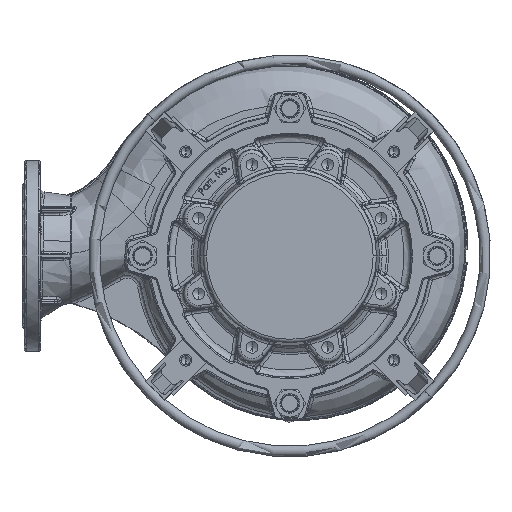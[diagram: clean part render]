
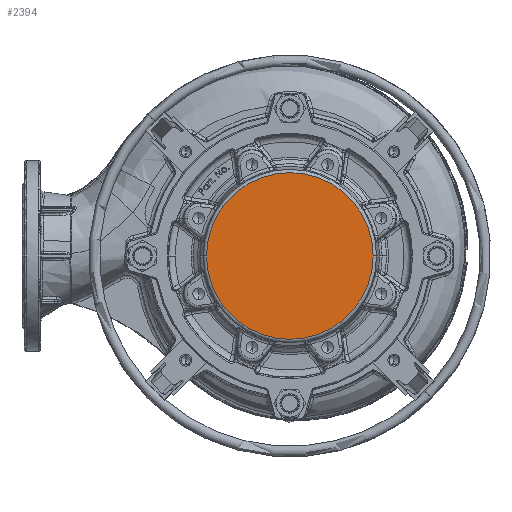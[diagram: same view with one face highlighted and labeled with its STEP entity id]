
A CAD part, front view. The second image highlights one B-rep face of the part: STEP entity #2394.
In plain terms, the highlighted planar face has unit normal (0, -1, 0).
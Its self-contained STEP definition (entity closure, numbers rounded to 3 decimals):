
#2394 = ADVANCED_FACE ( 'NONE', ( #90770 ), #7845, .T. ) ;
#7845 = PLANE ( 'NONE',  #25834 ) ;
#12954 = DIRECTION ( 'NONE',  ( -1., 0., 0. ) ) ;
#25834 = AXIS2_PLACEMENT_3D ( 'NONE', #193486, #188701, #190007 ) ;
#28322 = ORIENTED_EDGE ( 'NONE', *, *, #122991, .T. ) ;
#31567 = AXIS2_PLACEMENT_3D ( 'NONE', #192577, #102612, #12954 ) ;
#48242 = CIRCLE ( 'NONE', #31567, 124.418 ) ;
#56328 = DIRECTION ( 'NONE',  ( 0., -1., 0. ) ) ;
#59957 = VERTEX_POINT ( 'NONE', #170660 ) ;
#65044 = EDGE_LOOP ( 'NONE', ( #138322, #28322 ) ) ;
#81902 = VERTEX_POINT ( 'NONE', #110804 ) ;
#90770 = FACE_OUTER_BOUND ( 'NONE', #65044, .T. ) ;
#102612 = DIRECTION ( 'NONE',  ( 0., -1., 0. ) ) ;
#110804 = CARTESIAN_POINT ( 'NONE',  ( -124.418, -554.25, 0. ) ) ;
#122991 = EDGE_CURVE ( 'NONE', #59957, #81902, #48242, .T. ) ;
#132640 = EDGE_CURVE ( 'NONE', #81902, #59957, #181390, .T. ) ;
#137300 = AXIS2_PLACEMENT_3D ( 'NONE', #145949, #56328, #161048 ) ;
#138322 = ORIENTED_EDGE ( 'NONE', *, *, #132640, .T. ) ;
#145949 = CARTESIAN_POINT ( 'NONE',  ( 0., -554.25, 0. ) ) ;
#161048 = DIRECTION ( 'NONE',  ( -1., 0., 0. ) ) ;
#170660 = CARTESIAN_POINT ( 'NONE',  ( 124.418, -554.25, 0. ) ) ;
#181390 = CIRCLE ( 'NONE', #137300, 124.418 ) ;
#188701 = DIRECTION ( 'NONE',  ( 0., -1., 0. ) ) ;
#190007 = DIRECTION ( 'NONE',  ( -1., 0., 0. ) ) ;
#192577 = CARTESIAN_POINT ( 'NONE',  ( 0., -554.25, 0. ) ) ;
#193486 = CARTESIAN_POINT ( 'NONE',  ( 0., -554.25, -129. ) ) ;
